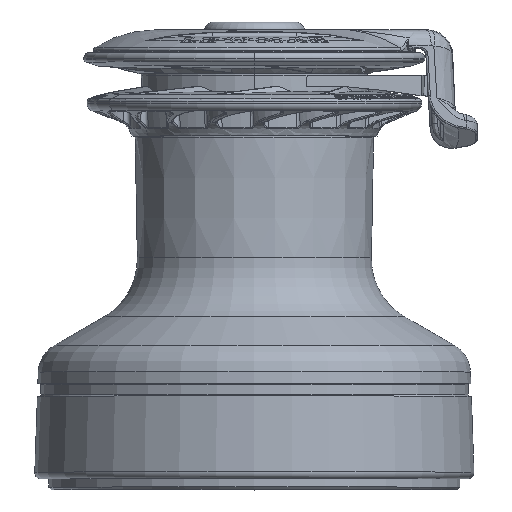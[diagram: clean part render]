
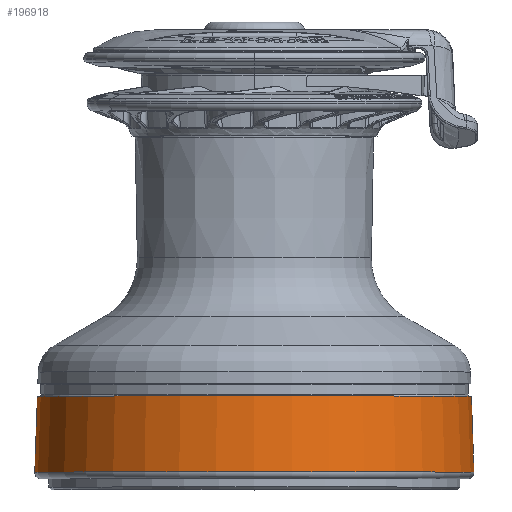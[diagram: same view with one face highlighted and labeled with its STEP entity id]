
A CAD part, top view. The second image highlights one B-rep face of the part: STEP entity #196918.
In plain terms, the highlighted conical face has half-angle 2 degrees and reference radius 68.512 mm.
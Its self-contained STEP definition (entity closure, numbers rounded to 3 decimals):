
#142871=CARTESIAN_POINT('',(0.,29.3,0.));
#142872=DIRECTION('',(0.,1.,0.));
#142873=DIRECTION('',(-1.,0.,0.));
#142874=AXIS2_PLACEMENT_3D('',#142871,#142872,#142873);
#142876=DIRECTION('',(0.035,-0.999,
0.));
#142877=VECTOR('',#142876,23.845);
#142878=CARTESIAN_POINT('',(68.096,29.3,0.));
#142879=LINE('',#142878,#142877);
#142880=DIRECTION('',(-0.035,-0.999,
0.));
#142881=VECTOR('',#142880,23.845);
#142882=CARTESIAN_POINT('',(-68.096,29.3,0.));
#142883=LINE('',#142882,#142881);
#142889=CARTESIAN_POINT('',(0.,5.47,0.));
#142890=DIRECTION('',(0.,-1.,0.));
#142891=DIRECTION('',(1.,0.,0.));
#142892=AXIS2_PLACEMENT_3D('',#142889,#142890,#142891);
#171957=CARTESIAN_POINT('',(68.928,5.47,0.));
#171958=CARTESIAN_POINT('',(-68.928,5.47,0.));
#171959=VERTEX_POINT('',#171957);
#171960=VERTEX_POINT('',#171958);
#173744=CARTESIAN_POINT('',(68.096,29.3,0.));
#173745=CARTESIAN_POINT('',(-68.096,29.3,0.));
#173746=VERTEX_POINT('',#173744);
#173747=VERTEX_POINT('',#173745);
#196906=CARTESIAN_POINT('',(0.,17.385,0.));
#196907=DIRECTION('',(0.,-1.,0.));
#196908=DIRECTION('',(-1.,0.,0.));
#196909=AXIS2_PLACEMENT_3D('',#196906,#196907,#196908);
#196910=CONICAL_SURFACE('',#196909,68.512,2.);
#196911=ORIENTED_EDGE('',*,*,#196881,.T.);
#196912=ORIENTED_EDGE('',*,*,#196901,.T.);
#196914=ORIENTED_EDGE('',*,*,#196913,.T.);
#196915=ORIENTED_EDGE('',*,*,#196897,.F.);
#196916=EDGE_LOOP('',(#196911,#196912,#196914,#196915));
#196917=FACE_OUTER_BOUND('',#196916,.F.);
#196918=ADVANCED_FACE('',(#196917),#196910,.T.);
#142875=CIRCLE('',#142874,68.096);
#142893=CIRCLE('',#142892,68.928);
#196881=EDGE_CURVE('',#173747,#173746,#142875,.T.);
#196897=EDGE_CURVE('',#173747,#171960,#142883,.T.);
#196901=EDGE_CURVE('',#173746,#171959,#142879,.T.);
#196913=EDGE_CURVE('',#171959,#171960,#142893,.T.);
